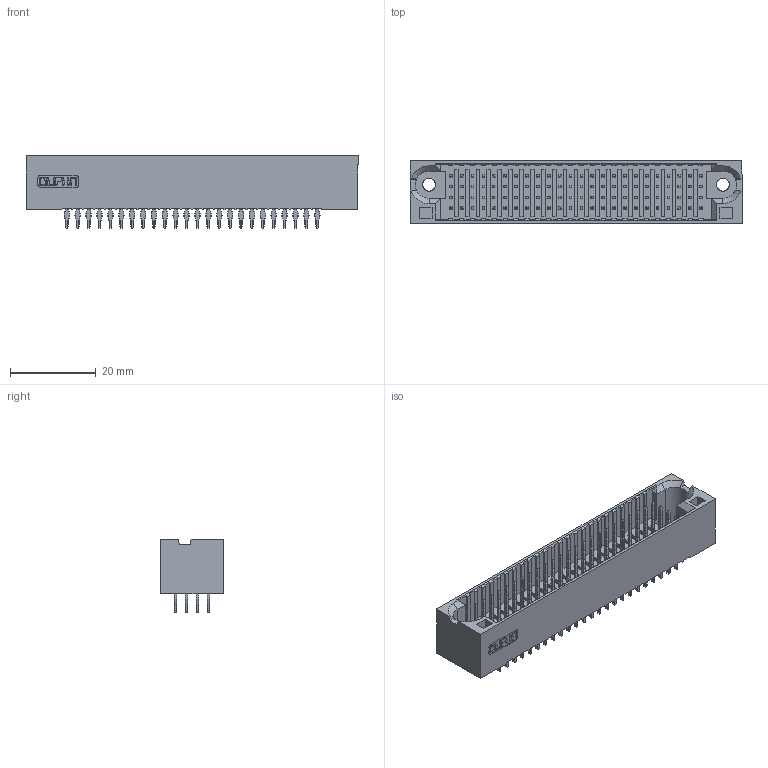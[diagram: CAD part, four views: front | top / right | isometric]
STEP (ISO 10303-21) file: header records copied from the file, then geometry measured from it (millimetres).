
FILE_DESCRIPTION (( 'STEP AP214' ), '1' );
FILE_NAME ('9391-A3S96CB30PA-.STEP', '2020-03-18T10:19:29', ( '' ), ( '' ), 'SwSTEP 2.0', 'SolidWorks 2011', '' );
FILE_SCHEMA (( 'AUTOMOTIVE_DESIGN' ));
Length unit declared in the file: millimetre
Products named in the file (1): 9391-A3S96CB30PA-
Bounding box: 77.47 x 14.58 x 16.95 mm (x, y, z)
Volume: 6328.6 mm3; surface area: 12473.1 mm2
Topology: 261 solids, 261 shells, 9354 faces, 23693 edges, 14798 vertices
Faces by surface type: plane 5390, bspline 2340, cylinder 1620, cone 4
Entity records: 435357 total; most frequent: CARTESIAN_POINT 130450, ORIENTED_EDGE 47386, DIRECTION 32499, EDGE_CURVE 23693, VERTEX_POINT 14798, LINE 11689, VECTOR 11689, AXIS2_PLACEMENT_3D 10405
